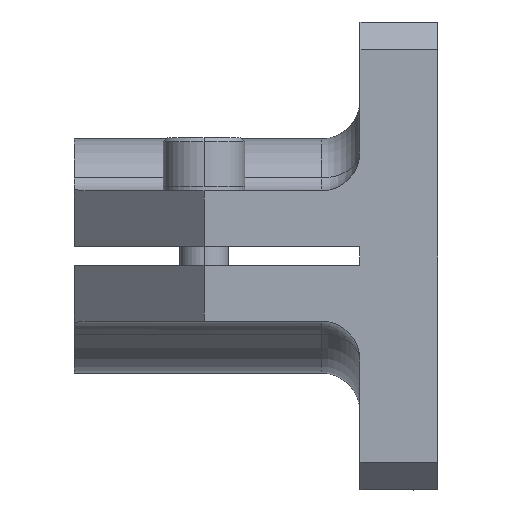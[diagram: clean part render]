
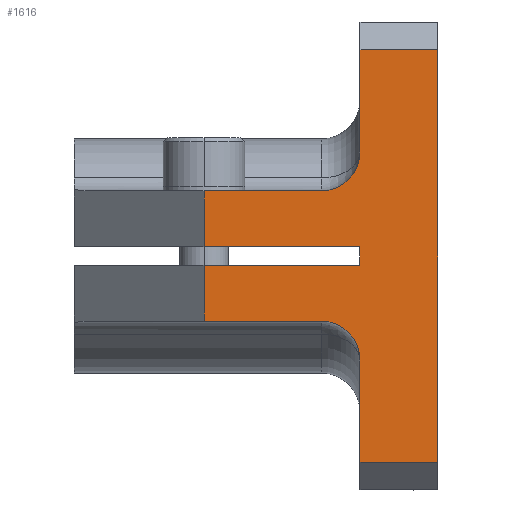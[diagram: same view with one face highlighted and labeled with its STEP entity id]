
A CAD part, left-side view. The second image highlights one B-rep face of the part: STEP entity #1616.
In plain terms, the highlighted planar face has unit normal (-1, 0, 0).
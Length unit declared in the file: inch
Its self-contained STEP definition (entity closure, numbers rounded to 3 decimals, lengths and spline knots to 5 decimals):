
#508 = ORIENTED_EDGE ( 'NONE', *, *, #6781, .F. ) ;
#509 = ORIENTED_EDGE ( 'NONE', *, *, #3635, .T. ) ;
#510 = ORIENTED_EDGE ( 'NONE', *, *, #3637, .T. ) ;
#511 = ORIENTED_EDGE ( 'NONE', *, *, #3639, .T. ) ;
#1616 = ADVANCED_FACE ( 'NONE', ( #21410 ), #13508, .F. ) ;
#3565 = EDGE_CURVE ( 'NONE', #11886, #11890, #10164, .T. ) ;
#3635 = EDGE_CURVE ( 'NONE', #11879, #11798, #10183, .T. ) ;
#3637 = EDGE_CURVE ( 'NONE', #11798, #11810, #10185, .T. ) ;
#3639 = EDGE_CURVE ( 'NONE', #11810, #11892, #10187, .T. ) ;
#3641 = EDGE_CURVE ( 'NONE', #11894, #11882, #10190, .T. ) ;
#3643 = EDGE_CURVE ( 'NONE', #11875, #11816, #10189, .T. ) ;
#3645 = EDGE_CURVE ( 'NONE', #11816, #11796, #10192, .T. ) ;
#3646 = EDGE_CURVE ( 'NONE', #11796, #11886, #10194, .T. ) ;
#3647 = EDGE_CURVE ( 'NONE', #11899, #11800, #10196, .T. ) ;
#3648 = EDGE_CURVE ( 'NONE', #11800, #11876, #10198, .T. ) ;
#4739 = DIRECTION ( 'NONE',  ( 0., 0., -1. ) ) ;
#4740 = DIRECTION ( 'NONE',  ( 1., 0., 0. ) ) ;
#4741 = CARTESIAN_POINT ( 'NONE',  ( -1.125, 0.562, -0.5 ) ) ;
#4742 = DIRECTION ( 'NONE',  ( 0., -1., 0. ) ) ;
#4743 = CARTESIAN_POINT ( 'NONE',  ( -1.125, 1.75, -0.313 ) ) ;
#4744 = DIRECTION ( 'NONE',  ( 0., 0., -1. ) ) ;
#4745 = CARTESIAN_POINT ( 'NONE',  ( -1.125, 0.375, 1.125 ) ) ;
#4746 = DIRECTION ( 'NONE',  ( 0., -1., 0. ) ) ;
#4747 = CARTESIAN_POINT ( 'NONE',  ( -1.125, 0.375, 0.045 ) ) ;
#4748 = DIRECTION ( 'NONE',  ( 0., 0., -1. ) ) ;
#4749 = CARTESIAN_POINT ( 'NONE',  ( -1.125, 1.125, -0.313 ) ) ;
#4750 = DIRECTION ( 'NONE',  ( 0., 0., -1. ) ) ;
#4751 = DIRECTION ( 'NONE',  ( 1., 0., 0. ) ) ;
#4752 = CARTESIAN_POINT ( 'NONE',  ( -1.125, 0.562, 0.5 ) ) ;
#4753 = DIRECTION ( 'NONE',  ( 0., 1., 0. ) ) ;
#4754 = CARTESIAN_POINT ( 'NONE',  ( -1.125, 0.375, 0.992 ) ) ;
#4755 = DIRECTION ( 'NONE',  ( 0., 0., 1. ) ) ;
#4756 = CARTESIAN_POINT ( 'NONE',  ( -1.125, 0., 1.125 ) ) ;
#4757 = DIRECTION ( 'NONE',  ( 0., -1., 0. ) ) ;
#4758 = CARTESIAN_POINT ( 'NONE',  ( -1.125, 0.375, -0.992 ) ) ;
#4786 = DIRECTION ( 'NONE',  ( 0., 1., 0. ) ) ;
#4787 = CARTESIAN_POINT ( 'NONE',  ( -1.125, 0.375, -0.045 ) ) ;
#6776 = EDGE_CURVE ( 'NONE', #11894, #11892, #10970, .T. ) ;
#6781 = EDGE_CURVE ( 'NONE', #11879, #11876, #10978, .T. ) ;
#7420 = AXIS2_PLACEMENT_3D ( 'NONE', #13507, #13506, #13505 ) ;
#8981 = DIRECTION ( 'NONE',  ( 0., 0., 1. ) ) ;
#8982 = CARTESIAN_POINT ( 'NONE',  ( -1.125, 0.375, 1.125 ) ) ;
#8995 = DIRECTION ( 'NONE',  ( 0., 0., 1. ) ) ;
#8996 = CARTESIAN_POINT ( 'NONE',  ( -1.125, 0.375, 1.125 ) ) ;
#9581 = AXIS2_PLACEMENT_3D ( 'NONE', #4752, #4751, #4750 ) ;
#9582 = AXIS2_PLACEMENT_3D ( 'NONE', #4741, #4740, #4739 ) ;
#10164 = LINE ( 'NONE', #4787, #10165 ) ;
#10165 = VECTOR ( 'NONE', #4786, 39.37008 ) ;
#10183 = LINE ( 'NONE', #4758, #10184 ) ;
#10184 = VECTOR ( 'NONE', #4757, 39.37008 ) ;
#10185 = LINE ( 'NONE', #4756, #10186 ) ;
#10186 = VECTOR ( 'NONE', #4755, 39.37008 ) ;
#10187 = LINE ( 'NONE', #4754, #10188 ) ;
#10188 = VECTOR ( 'NONE', #4753, 39.37008 ) ;
#10189 = LINE ( 'NONE', #4749, #10191 ) ;
#10190 = CIRCLE ( 'NONE', #9581, 0.187 ) ;
#10191 = VECTOR ( 'NONE', #4748, 39.37008 ) ;
#10192 = LINE ( 'NONE', #4747, #10193 ) ;
#10193 = VECTOR ( 'NONE', #4746, 39.37008 ) ;
#10194 = LINE ( 'NONE', #4745, #10195 ) ;
#10195 = VECTOR ( 'NONE', #4744, 39.37008 ) ;
#10196 = LINE ( 'NONE', #4743, #10197 ) ;
#10197 = VECTOR ( 'NONE', #4742, 39.37008 ) ;
#10198 = CIRCLE ( 'NONE', #9582, 0.187 ) ;
#10970 = LINE ( 'NONE', #8996, #10971 ) ;
#10971 = VECTOR ( 'NONE', #8995, 39.37008 ) ;
#10978 = LINE ( 'NONE', #8982, #10979 ) ;
#10979 = VECTOR ( 'NONE', #8981, 39.37008 ) ;
#11447 = EDGE_CURVE ( 'NONE', #11875, #11882, #16247, .T. ) ;
#11460 = EDGE_CURVE ( 'NONE', #11890, #11899, #16268, .T. ) ;
#11796 = VERTEX_POINT ( 'NONE', #19311 ) ;
#11798 = VERTEX_POINT ( 'NONE', #19309 ) ;
#11800 = VERTEX_POINT ( 'NONE', #19307 ) ;
#11810 = VERTEX_POINT ( 'NONE', #19296 ) ;
#11816 = VERTEX_POINT ( 'NONE', #19290 ) ;
#11875 = VERTEX_POINT ( 'NONE', #19230 ) ;
#11876 = VERTEX_POINT ( 'NONE', #19229 ) ;
#11879 = VERTEX_POINT ( 'NONE', #19226 ) ;
#11882 = VERTEX_POINT ( 'NONE', #19223 ) ;
#11886 = VERTEX_POINT ( 'NONE', #19219 ) ;
#11890 = VERTEX_POINT ( 'NONE', #19215 ) ;
#11892 = VERTEX_POINT ( 'NONE', #19213 ) ;
#11894 = VERTEX_POINT ( 'NONE', #19211 ) ;
#11899 = VERTEX_POINT ( 'NONE', #19205 ) ;
#13505 = DIRECTION ( 'NONE',  ( 0., 0., -1. ) ) ;
#13506 = DIRECTION ( 'NONE',  ( 1., 0., 0. ) ) ;
#13507 = CARTESIAN_POINT ( 'NONE',  ( -1.125, 0.375, 1.125 ) ) ;
#13508 = PLANE ( 'NONE',  #7420 ) ;
#15526 = ORIENTED_EDGE ( 'NONE', *, *, #6776, .F. ) ;
#15527 = ORIENTED_EDGE ( 'NONE', *, *, #3641, .T. ) ;
#15528 = ORIENTED_EDGE ( 'NONE', *, *, #11447, .F. ) ;
#15529 = ORIENTED_EDGE ( 'NONE', *, *, #3643, .T. ) ;
#15530 = ORIENTED_EDGE ( 'NONE', *, *, #3645, .T. ) ;
#15531 = ORIENTED_EDGE ( 'NONE', *, *, #3646, .T. ) ;
#15532 = ORIENTED_EDGE ( 'NONE', *, *, #3565, .T. ) ;
#15533 = ORIENTED_EDGE ( 'NONE', *, *, #11460, .T. ) ;
#15534 = ORIENTED_EDGE ( 'NONE', *, *, #3647, .T. ) ;
#15535 = ORIENTED_EDGE ( 'NONE', *, *, #3648, .T. ) ;
#15725 = EDGE_LOOP ( 'NONE', ( #508, #509, #510, #511, #15526, #15527, #15528, #15529, #15530, #15531, #15532, #15533, #15534, #15535 ) ) ;
#16247 = LINE ( 'NONE', #17013, #16248 ) ;
#16248 = VECTOR ( 'NONE', #17012, 39.37008 ) ;
#16268 = LINE ( 'NONE', #16979, #16269 ) ;
#16269 = VECTOR ( 'NONE', #16978, 39.37008 ) ;
#16978 = DIRECTION ( 'NONE',  ( 0., 0., -1. ) ) ;
#16979 = CARTESIAN_POINT ( 'NONE',  ( -1.125, 1.125, -0.313 ) ) ;
#17012 = DIRECTION ( 'NONE',  ( 0., -1., 0. ) ) ;
#17013 = CARTESIAN_POINT ( 'NONE',  ( -1.125, 1.75, 0.313 ) ) ;
#19205 = CARTESIAN_POINT ( 'NONE',  ( -1.125, 1.125, -0.313 ) ) ;
#19211 = CARTESIAN_POINT ( 'NONE',  ( -1.125, 0.375, 0.5 ) ) ;
#19213 = CARTESIAN_POINT ( 'NONE',  ( -1.125, 0.375, 0.992 ) ) ;
#19215 = CARTESIAN_POINT ( 'NONE',  ( -1.125, 1.125, -0.045 ) ) ;
#19219 = CARTESIAN_POINT ( 'NONE',  ( -1.125, 0.375, -0.045 ) ) ;
#19223 = CARTESIAN_POINT ( 'NONE',  ( -1.125, 0.562, 0.313 ) ) ;
#19226 = CARTESIAN_POINT ( 'NONE',  ( -1.125, 0.375, -0.992 ) ) ;
#19229 = CARTESIAN_POINT ( 'NONE',  ( -1.125, 0.375, -0.5 ) ) ;
#19230 = CARTESIAN_POINT ( 'NONE',  ( -1.125, 1.125, 0.313 ) ) ;
#19290 = CARTESIAN_POINT ( 'NONE',  ( -1.125, 1.125, 0.045 ) ) ;
#19296 = CARTESIAN_POINT ( 'NONE',  ( -1.125, 0., 0.992 ) ) ;
#19307 = CARTESIAN_POINT ( 'NONE',  ( -1.125, 0.562, -0.313 ) ) ;
#19309 = CARTESIAN_POINT ( 'NONE',  ( -1.125, 0., -0.992 ) ) ;
#19311 = CARTESIAN_POINT ( 'NONE',  ( -1.125, 0.375, 0.045 ) ) ;
#21410 = FACE_OUTER_BOUND ( 'NONE', #15725, .T. ) ;
